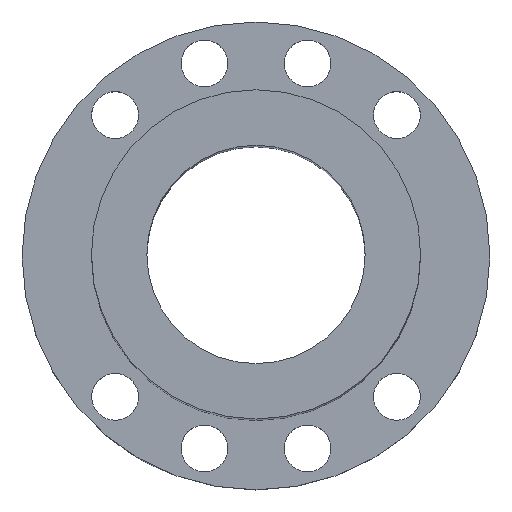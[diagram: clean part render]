
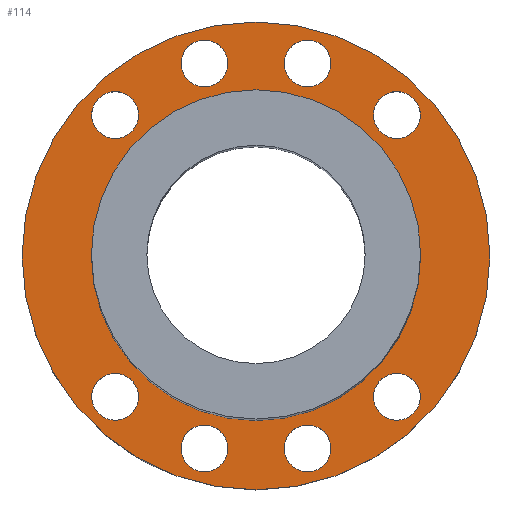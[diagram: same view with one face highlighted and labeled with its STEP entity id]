
A CAD part, top view. The second image highlights one B-rep face of the part: STEP entity #114.
In plain terms, the highlighted planar face has unit normal (0, 0, 1).
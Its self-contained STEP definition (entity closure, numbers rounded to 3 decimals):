
#99=PLANE('',#401);
#114=ADVANCED_FACE('',(#169,#170,#171,#172,#173,#174,#175,#176,#177,#178),
#99,.T.);
#169=FACE_BOUND('',#221,.T.);
#170=FACE_BOUND('',#222,.T.);
#171=FACE_BOUND('',#223,.T.);
#172=FACE_BOUND('',#224,.T.);
#173=FACE_BOUND('',#225,.T.);
#174=FACE_BOUND('',#226,.T.);
#175=FACE_BOUND('',#227,.T.);
#176=FACE_BOUND('',#228,.T.);
#177=FACE_BOUND('',#229,.T.);
#178=FACE_BOUND('',#230,.T.);
#221=EDGE_LOOP('',(#273));
#222=EDGE_LOOP('',(#274));
#223=EDGE_LOOP('',(#275));
#224=EDGE_LOOP('',(#276));
#225=EDGE_LOOP('',(#277));
#226=EDGE_LOOP('',(#278));
#227=EDGE_LOOP('',(#279));
#228=EDGE_LOOP('',(#280));
#229=EDGE_LOOP('',(#281));
#230=EDGE_LOOP('',(#282));
#273=ORIENTED_EDGE('',*,*,#316,.T.);
#274=ORIENTED_EDGE('',*,*,#337,.T.);
#275=ORIENTED_EDGE('',*,*,#336,.F.);
#276=ORIENTED_EDGE('',*,*,#335,.F.);
#277=ORIENTED_EDGE('',*,*,#334,.T.);
#278=ORIENTED_EDGE('',*,*,#333,.F.);
#279=ORIENTED_EDGE('',*,*,#332,.F.);
#280=ORIENTED_EDGE('',*,*,#331,.T.);
#281=ORIENTED_EDGE('',*,*,#318,.T.);
#282=ORIENTED_EDGE('',*,*,#338,.T.);
#290=VERTEX_POINT('',#495);
#292=VERTEX_POINT('',#557);
#305=VERTEX_POINT('',#644);
#306=VERTEX_POINT('',#647);
#307=VERTEX_POINT('',#650);
#308=VERTEX_POINT('',#653);
#309=VERTEX_POINT('',#656);
#310=VERTEX_POINT('',#659);
#311=VERTEX_POINT('',#662);
#312=VERTEX_POINT('',#665);
#316=EDGE_CURVE('',#290,#290,#342,.T.);
#318=EDGE_CURVE('',#292,#292,#343,.T.);
#331=EDGE_CURVE('',#305,#305,#355,.T.);
#332=EDGE_CURVE('',#306,#306,#356,.T.);
#333=EDGE_CURVE('',#307,#307,#357,.T.);
#334=EDGE_CURVE('',#308,#308,#358,.T.);
#335=EDGE_CURVE('',#309,#309,#359,.T.);
#336=EDGE_CURVE('',#310,#310,#360,.T.);
#337=EDGE_CURVE('',#311,#311,#361,.T.);
#338=EDGE_CURVE('',#312,#312,#362,.T.);
#342=CIRCLE('',#367,67.5);
#343=CIRCLE('',#369,47.5);
#355=CIRCLE('',#385,6.75);
#356=CIRCLE('',#387,6.75);
#357=CIRCLE('',#389,6.75);
#358=CIRCLE('',#391,6.75);
#359=CIRCLE('',#393,6.75);
#360=CIRCLE('',#395,6.75);
#361=CIRCLE('',#397,6.75);
#362=CIRCLE('',#399,6.75);
#367=AXIS2_PLACEMENT_3D('',#494,#411,#412);
#369=AXIS2_PLACEMENT_3D('',#556,#415,#416);
#385=AXIS2_PLACEMENT_3D('',#643,#447,#448);
#387=AXIS2_PLACEMENT_3D('',#646,#451,#452);
#389=AXIS2_PLACEMENT_3D('',#649,#455,#456);
#391=AXIS2_PLACEMENT_3D('',#652,#459,#460);
#393=AXIS2_PLACEMENT_3D('',#655,#463,#464);
#395=AXIS2_PLACEMENT_3D('',#658,#467,#468);
#397=AXIS2_PLACEMENT_3D('',#661,#471,#472);
#399=AXIS2_PLACEMENT_3D('',#664,#475,#476);
#401=AXIS2_PLACEMENT_3D('',#667,#479,#480);
#411=DIRECTION('',(0.,0.,1.));
#412=DIRECTION('',(1.,0.,0.));
#415=DIRECTION('',(0.,0.,-1.));
#416=DIRECTION('',(1.,0.,0.));
#447=DIRECTION('',(0.,0.,-1.));
#448=DIRECTION('',(-1.,0.,0.));
#451=DIRECTION('',(0.,0.,1.));
#452=DIRECTION('',(-1.,0.,0.));
#455=DIRECTION('',(0.,0.,1.));
#456=DIRECTION('',(1.,0.,0.));
#459=DIRECTION('',(0.,0.,-1.));
#460=DIRECTION('',(1.,0.,0.));
#463=DIRECTION('',(0.,0.,1.));
#464=DIRECTION('',(-1.,0.,0.));
#467=DIRECTION('',(0.,0.,1.));
#468=DIRECTION('',(1.,0.,0.));
#471=DIRECTION('',(0.,0.,-1.));
#472=DIRECTION('',(1.,0.,0.));
#475=DIRECTION('',(0.,0.,-1.));
#476=DIRECTION('',(-1.,0.,0.));
#479=DIRECTION('',(0.,0.,1.));
#480=DIRECTION('',(1.,0.,0.));
#494=CARTESIAN_POINT('',(0.,0.,20.));
#495=CARTESIAN_POINT('',(67.5,0.,20.));
#556=CARTESIAN_POINT('',(0.,0.,20.));
#557=CARTESIAN_POINT('',(47.5,0.,20.));
#643=CARTESIAN_POINT('',(40.659,40.659,20.));
#644=CARTESIAN_POINT('',(33.909,40.659,20.));
#646=CARTESIAN_POINT('',(14.882,-55.541,20.));
#647=CARTESIAN_POINT('',(8.132,-55.541,20.));
#649=CARTESIAN_POINT('',(-40.659,40.659,20.));
#650=CARTESIAN_POINT('',(-33.909,40.659,20.));
#652=CARTESIAN_POINT('',(-14.882,-55.541,20.));
#653=CARTESIAN_POINT('',(-8.132,-55.541,20.));
#655=CARTESIAN_POINT('',(40.659,-40.659,20.));
#656=CARTESIAN_POINT('',(33.909,-40.659,20.));
#658=CARTESIAN_POINT('',(-14.882,55.541,20.));
#659=CARTESIAN_POINT('',(-8.132,55.541,20.));
#661=CARTESIAN_POINT('',(-40.659,-40.659,20.));
#662=CARTESIAN_POINT('',(-33.909,-40.659,20.));
#664=CARTESIAN_POINT('',(14.882,55.541,20.));
#665=CARTESIAN_POINT('',(8.132,55.541,20.));
#667=CARTESIAN_POINT('',(-20.329,-20.329,20.));
